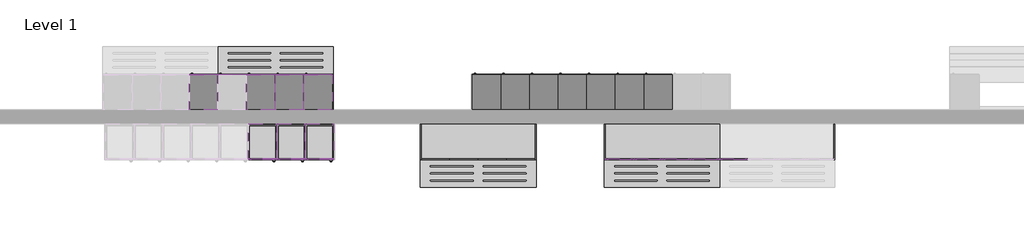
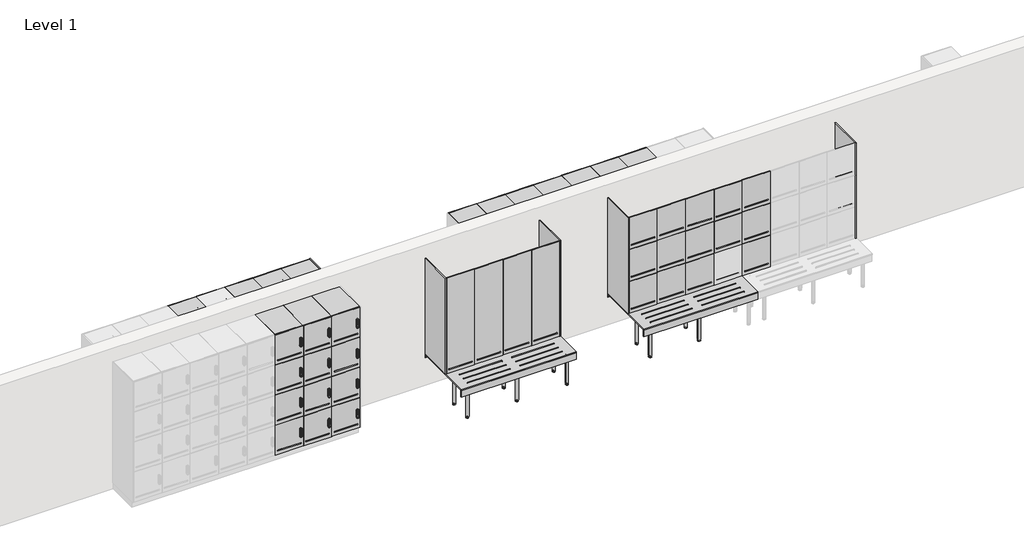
# One storey, part 2 of 3: 124 furniture elements.
"""IFC4 building model written with IfcOpenShell, lengths in millimetres."""

from ifc_helpers import new_model, si_unit, origin, place, context, project, spatial, transform, mapped, element, save
from components import furniture_7293fc8f, furniture_05545089, furniture_e4ac2a61, standard_2dcb62da, standard_f5ae554c, standard_45df0485, standard_ef5d929b, standard_f5e0fdab, standard_98e0e482, standard_e2bbb5fc, standard_e0f8491c, standard_74556009, standard_06cb4884, standard_31d623df, standard_40445af7, standard_a614ba5f, standard_bf09c246, standard_83458254, standard_7a0b6f89

model = new_model("IFC4")

# Units and contexts
model_context = context("Model", 3, world=origin())
ifc_project = project(units=[si_unit("LENGTHUNIT", "METRE", prefix="MILLI")], contexts=[model_context])

# Site, building, storey
site = spatial("IfcSite", under=ifc_project)
building = spatial("IfcBuilding", under=site)
storey = spatial("IfcBuildingStorey", under=building, Name="Level 1", Elevation=0.0)

# Furniture
placement = place(None, origin())
furniture_shape = furniture_7293fc8f(model_context)
element("IfcFurniture", 1, ObjectType="Lockers-Bay-Duracube-Duraloc : LBM-1900h x 500d x 400w with 470h Bench", at=placement, inside=storey, context=model_context, shape_type="MappedRepresentation", body=[
    mapped(furniture_shape, transform((-3635.1575415, 2567.7422336, 0.0), x_axis=(1.0, 0.0, 0.0), y_axis=(0.0, 1.0, 0.0), z_axis=(0.0, 0.0, 1.0))),
])
furniture_2_shape = furniture_05545089(model_context)
element("IfcFurniture", 2, ObjectType="Lockers-Bay-Duracube-Duraloc : LBM-1900h x 500d x 400w with 470h Bench", at=placement, inside=storey, context=model_context, shape_type="MappedRepresentation", body=[
    mapped(furniture_2_shape, transform((-1055.1575415, 2567.7422336, 0.0), x_axis=(1.0, 0.0, 0.0), y_axis=(0.0, 1.0, 0.0), z_axis=(0.0, 0.0, 1.0))),
])
furniture_3_shape = furniture_e4ac2a61(model_context)
element("IfcFurniture", 3, ObjectType="Lockers-Bay-Duracube-Duraloc : LWM-1900h x 500d x 400w @ 470h Wall", at=placement, inside=storey, context=model_context, shape_type="MappedRepresentation", body=[
    mapped(furniture_3_shape, transform((-4855.1575415, 3267.7422336, 0.0), x_axis=(-1.0, 0.0, 0.0), y_axis=(0.0, -1.0, 0.0), z_axis=(0.0, 0.0, 1.0))),
])
standard_shape = standard_2dcb62da(model_context)
element("IfcFurniture", 4, ObjectType="X_Bench-Foot-Duracube-Wall Assembly : Standard", at=placement, inside=storey, context=model_context, shape_type="MappedRepresentation", body=[
    mapped(standard_shape, transform((-3566.357868, 2317.7422336, 0.0), x_axis=(1.0, 0.0, 0.0), y_axis=(0.0, 1.0, 0.0), z_axis=(0.0, 0.0, 1.0))),
])
element("IfcFurniture", 5, ObjectType="X_Bench-Foot-Duracube-Wall Assembly : Standard", at=placement, inside=storey, context=model_context, shape_type="MappedRepresentation", body=[
    mapped(standard_shape, transform((-2866.857868, 2317.7422336, 0.0), x_axis=(1.0, 0.0, 0.0), y_axis=(0.0, 1.0, 0.0), z_axis=(0.0, 0.0, 1.0))),
])
element("IfcFurniture", 6, ObjectType="X_Bench-Foot-Duracube-Wall Assembly : Standard", at=placement, inside=storey, context=model_context, shape_type="MappedRepresentation", body=[
    mapped(standard_shape, transform((-986.357868, 2317.7422336, 0.0), x_axis=(1.0, 0.0, 0.0), y_axis=(0.0, 1.0, 0.0), z_axis=(0.0, 0.0, 1.0))),
])
element("IfcFurniture", 7, ObjectType="X_Bench-Foot-Duracube-Wall Assembly : Standard", at=placement, inside=storey, context=model_context, shape_type="MappedRepresentation", body=[
    mapped(standard_shape, transform((-293.357868, 2317.7422336, 0.0), x_axis=(1.0, 0.0, 0.0), y_axis=(0.0, 1.0, 0.0), z_axis=(0.0, 0.0, 1.0))),
])
element("IfcFurniture", 8, ObjectType="X_Bench-Foot-Duracube-Wall Assembly : Standard", at=placement, inside=storey, context=model_context, shape_type="MappedRepresentation", body=[
    mapped(standard_shape, transform((-4923.9572151, 3517.7422336, 0.0), x_axis=(-1.0, 0.0, 0.0), y_axis=(0.0, -1.0, 0.0), z_axis=(0.0, 0.0, 1.0))),
])
element("IfcFurniture", 9, ObjectType="X_Bench-Foot-Duracube-Wall Assembly : Standard", at=placement, inside=storey, context=model_context, shape_type="MappedRepresentation", body=[
    mapped(standard_shape, transform((-5616.9572151, 3517.7422336, 0.0), x_axis=(-1.0, 0.0, 0.0), y_axis=(0.0, -1.0, 0.0), z_axis=(0.0, 0.0, 1.0))),
])
element("IfcFurniture", 10, ObjectType="X_Bench-Foot-Duracube-Wall Assembly : Standard", at=placement, inside=storey, context=model_context, shape_type="MappedRepresentation", body=[
    mapped(standard_shape, transform((-6536.9572151, 3517.7422336, 0.0), x_axis=(-1.0, 0.0, 0.0), y_axis=(0.0, -1.0, 0.0), z_axis=(0.0, 0.0, 1.0))),
])
standard_2_shape = standard_f5ae554c(model_context)
element("IfcFurniture", 11, ObjectType="X_Bench-Foot-Duracube-Wall Assembly : Standard", at=placement, inside=storey, context=model_context, shape_type="MappedRepresentation", body=[
    mapped(standard_2_shape, transform((-2077.9572151, 2317.7422336, 0.0), x_axis=(-1.0, 0.0, 0.0), y_axis=(0.0, -1.0, 0.0), z_axis=(0.0, 0.0, 1.0))),
])
element("IfcFurniture", 12, ObjectType="X_Bench-Foot-Duracube-Wall Assembly : Standard", at=placement, inside=storey, context=model_context, shape_type="MappedRepresentation", body=[
    mapped(standard_2_shape, transform((-6399.357868, 3517.7422336, 0.0), x_axis=(1.0, 0.0, 0.0), y_axis=(0.0, 1.0, 0.0), z_axis=(0.0, 0.0, 1.0))),
])
standard_3_shape = standard_45df0485(model_context)
element("IfcFurniture", 13, ObjectType="X_Vanity-Angle-Duracube-Bench Support : Standard", at=placement, inside=storey, context=model_context, shape_type="MappedRepresentation", body=[
    mapped(standard_3_shape, transform((-293.357868, 2817.7422336, 417.0), x_axis=(1.0, 0.0, 0.0), y_axis=(0.0, 1.0, 0.0), z_axis=(0.0, 0.0, 1.0))),
])
element("IfcFurniture", 14, ObjectType="X_Vanity-Angle-Duracube-Bench Support : Standard", at=placement, inside=storey, context=model_context, shape_type="MappedRepresentation", body=[
    mapped(standard_3_shape, transform((-5616.9572151, 3017.7422336, 417.0), x_axis=(-1.0, 0.0, 0.0), y_axis=(0.0, -1.0, 0.0), z_axis=(0.0, 0.0, 1.0))),
])
standard_4_shape = standard_ef5d929b(model_context)
element("IfcFurniture", 15, ObjectType="X_Vanity-Angle-Duracube-Bench Support : Standard", at=placement, inside=storey, context=model_context, shape_type="MappedRepresentation", body=[
    mapped(standard_4_shape, transform((-2866.857868, 2817.7422336, 417.0), x_axis=(1.0, 0.0, 0.0), y_axis=(0.0, 1.0, 0.0), z_axis=(0.0, 0.0, 1.0))),
])
standard_5_shape = standard_f5e0fdab(model_context)
element("IfcFurniture", 16, ObjectType="X_Bench-Wall-Duracube-Locker : Standard", at=placement, inside=storey, context=model_context, shape_type="MappedRepresentation", body=[
    mapped(standard_5_shape, transform((-2866.857868, 2725.2422336, 0.0), x_axis=(1.0, 0.0, 0.0), y_axis=(0.0, 1.0, 0.0), z_axis=(0.0, 0.0, 1.0))),
])
standard_6_shape = standard_98e0e482(model_context)
element("IfcFurniture", 17, ObjectType="X_Bench-Wall-Duracube-Locker : Standard", at=placement, inside=storey, context=model_context, shape_type="MappedRepresentation", body=[
    mapped(standard_6_shape, transform((-293.357868, 2725.2422336, 0.0), x_axis=(1.0, 0.0, 0.0), y_axis=(0.0, 1.0, 0.0), z_axis=(0.0, 0.0, 1.0))),
])
element("IfcFurniture", 18, ObjectType="X_Bench-Wall-Duracube-Locker : Standard", at=placement, inside=storey, context=model_context, shape_type="MappedRepresentation", body=[
    mapped(standard_6_shape, transform((-5616.9572151, 3110.2422336, 0.0), x_axis=(-1.0, 0.0, 0.0), y_axis=(0.0, -1.0, 0.0), z_axis=(0.0, 0.0, 1.0))),
])
standard_7_shape = standard_e2bbb5fc(model_context)
element("IfcFurniture", 19, ObjectType="X_Locker-Duracube-Bay : Standard", at=placement, inside=storey, context=model_context, shape_type="MappedRepresentation", body=[
    mapped(standard_7_shape, transform((-5086.857868, 2817.7422336, 1450.0), x_axis=(1.0, 0.0, 0.0), y_axis=(0.0, 1.0, 0.0), z_axis=(0.0, 0.0, 1.0))),
])
element("IfcFurniture", 20, ObjectType="X_Locker-Duracube-Bay : Standard", at=placement, inside=storey, context=model_context, shape_type="MappedRepresentation", body=[
    mapped(standard_7_shape, transform((-5486.857868, 2817.7422336, 1450.0), x_axis=(1.0, 0.0, 0.0), y_axis=(0.0, 1.0, 0.0), z_axis=(0.0, 0.0, 1.0))),
])
element("IfcFurniture", 21, ObjectType="X_Locker-Duracube-Bay : Standard", at=placement, inside=storey, context=model_context, shape_type="MappedRepresentation", body=[
    mapped(standard_7_shape, transform((-5886.857868, 2817.7422336, 1450.0), x_axis=(1.0, 0.0, 0.0), y_axis=(0.0, 1.0, 0.0), z_axis=(0.0, 0.0, 1.0))),
])
standard_8_shape = standard_e0f8491c(model_context)
element("IfcFurniture", 22, ObjectType="X_Locker-Duracube-Door : Standard", at=placement, inside=storey, context=model_context, shape_type="MappedRepresentation", body=[
    mapped(standard_8_shape, transform((-5086.857868, 2330.7422336, 1450.0), x_axis=(1.0, 0.0, 0.0), y_axis=(0.0, 1.0, 0.0), z_axis=(0.0, 0.0, 1.0))),
])
element("IfcFurniture", 23, ObjectType="X_Locker-Duracube-Door : Standard", at=placement, inside=storey, context=model_context, shape_type="MappedRepresentation", body=[
    mapped(standard_8_shape, transform((-5486.857868, 2330.7422336, 1450.0), x_axis=(1.0, 0.0, 0.0), y_axis=(0.0, 1.0, 0.0), z_axis=(0.0, 0.0, 1.0))),
])
element("IfcFurniture", 24, ObjectType="X_Locker-Duracube-Door : Standard", at=placement, inside=storey, context=model_context, shape_type="MappedRepresentation", body=[
    mapped(standard_8_shape, transform((-5886.857868, 2330.7422336, 1450.0), x_axis=(1.0, 0.0, 0.0), y_axis=(0.0, 1.0, 0.0), z_axis=(0.0, 0.0, 1.0))),
])
element("IfcFurniture", 25, ObjectType="X_Locker-Duracube-Bay : Standard", at=placement, inside=storey, context=model_context, shape_type="MappedRepresentation", body=[
    mapped(standard_7_shape, transform((-5086.857868, 2817.7422336, 1000.0), x_axis=(1.0, 0.0, 0.0), y_axis=(0.0, 1.0, 0.0), z_axis=(0.0, 0.0, 1.0))),
])
element("IfcFurniture", 26, ObjectType="X_Locker-Duracube-Bay : Standard", at=placement, inside=storey, context=model_context, shape_type="MappedRepresentation", body=[
    mapped(standard_7_shape, transform((-5486.857868, 2817.7422336, 1000.0), x_axis=(1.0, 0.0, 0.0), y_axis=(0.0, 1.0, 0.0), z_axis=(0.0, 0.0, 1.0))),
])
element("IfcFurniture", 27, ObjectType="X_Locker-Duracube-Bay : Standard", at=placement, inside=storey, context=model_context, shape_type="MappedRepresentation", body=[
    mapped(standard_7_shape, transform((-5886.857868, 2817.7422336, 1000.0), x_axis=(1.0, 0.0, 0.0), y_axis=(0.0, 1.0, 0.0), z_axis=(0.0, 0.0, 1.0))),
])
element("IfcFurniture", 28, ObjectType="X_Locker-Duracube-Bay : Standard", at=placement, inside=storey, context=model_context, shape_type="MappedRepresentation", body=[
    mapped(standard_7_shape, transform((-5086.857868, 2817.7422336, 100.0), x_axis=(1.0, 0.0, 0.0), y_axis=(0.0, 1.0, 0.0), z_axis=(0.0, 0.0, 1.0))),
])
element("IfcFurniture", 29, ObjectType="X_Locker-Duracube-Bay : Standard", at=placement, inside=storey, context=model_context, shape_type="MappedRepresentation", body=[
    mapped(standard_7_shape, transform((-5486.857868, 2817.7422336, 100.0), x_axis=(1.0, 0.0, 0.0), y_axis=(0.0, 1.0, 0.0), z_axis=(0.0, 0.0, 1.0))),
])
element("IfcFurniture", 30, ObjectType="X_Locker-Duracube-Bay : Standard", at=placement, inside=storey, context=model_context, shape_type="MappedRepresentation", body=[
    mapped(standard_7_shape, transform((-5886.857868, 2817.7422336, 100.0), x_axis=(1.0, 0.0, 0.0), y_axis=(0.0, 1.0, 0.0), z_axis=(0.0, 0.0, 1.0))),
])
element("IfcFurniture", 31, ObjectType="X_Locker-Duracube-Door : Standard", at=placement, inside=storey, context=model_context, shape_type="MappedRepresentation", body=[
    mapped(standard_8_shape, transform((-5086.857868, 2330.7422336, 1000.0), x_axis=(1.0, 0.0, 0.0), y_axis=(0.0, 1.0, 0.0), z_axis=(0.0, 0.0, 1.0))),
])
element("IfcFurniture", 32, ObjectType="X_Locker-Duracube-Door : Standard", at=placement, inside=storey, context=model_context, shape_type="MappedRepresentation", body=[
    mapped(standard_8_shape, transform((-5486.857868, 2330.7422336, 1000.0), x_axis=(1.0, 0.0, 0.0), y_axis=(0.0, 1.0, 0.0), z_axis=(0.0, 0.0, 1.0))),
])
element("IfcFurniture", 33, ObjectType="X_Locker-Duracube-Door : Standard", at=placement, inside=storey, context=model_context, shape_type="MappedRepresentation", body=[
    mapped(standard_8_shape, transform((-5886.857868, 2330.7422336, 1000.0), x_axis=(1.0, 0.0, 0.0), y_axis=(0.0, 1.0, 0.0), z_axis=(0.0, 0.0, 1.0))),
])
element("IfcFurniture", 34, ObjectType="X_Locker-Duracube-Door : Standard", at=placement, inside=storey, context=model_context, shape_type="MappedRepresentation", body=[
    mapped(standard_8_shape, transform((-5086.857868, 2330.7422336, 100.0), x_axis=(1.0, 0.0, 0.0), y_axis=(0.0, 1.0, 0.0), z_axis=(0.0, 0.0, 1.0))),
])
element("IfcFurniture", 35, ObjectType="X_Locker-Duracube-Door : Standard", at=placement, inside=storey, context=model_context, shape_type="MappedRepresentation", body=[
    mapped(standard_8_shape, transform((-5486.857868, 2330.7422336, 100.0), x_axis=(1.0, 0.0, 0.0), y_axis=(0.0, 1.0, 0.0), z_axis=(0.0, 0.0, 1.0))),
])
element("IfcFurniture", 36, ObjectType="X_Locker-Duracube-Door : Standard", at=placement, inside=storey, context=model_context, shape_type="MappedRepresentation", body=[
    mapped(standard_8_shape, transform((-5886.857868, 2330.7422336, 100.0), x_axis=(1.0, 0.0, 0.0), y_axis=(0.0, 1.0, 0.0), z_axis=(0.0, 0.0, 1.0))),
])
element("IfcFurniture", 37, ObjectType="X_Locker-Duracube-Bay : Standard", at=placement, inside=storey, context=model_context, shape_type="MappedRepresentation", body=[
    mapped(standard_7_shape, transform((-5086.857868, 2817.7422336, 550.0), x_axis=(1.0, 0.0, 0.0), y_axis=(0.0, 1.0, 0.0), z_axis=(0.0, 0.0, 1.0))),
])
element("IfcFurniture", 38, ObjectType="X_Locker-Duracube-Bay : Standard", at=placement, inside=storey, context=model_context, shape_type="MappedRepresentation", body=[
    mapped(standard_7_shape, transform((-5486.857868, 2817.7422336, 550.0), x_axis=(1.0, 0.0, 0.0), y_axis=(0.0, 1.0, 0.0), z_axis=(0.0, 0.0, 1.0))),
])
element("IfcFurniture", 39, ObjectType="X_Locker-Duracube-Bay : Standard", at=placement, inside=storey, context=model_context, shape_type="MappedRepresentation", body=[
    mapped(standard_7_shape, transform((-5886.857868, 2817.7422336, 550.0), x_axis=(1.0, 0.0, 0.0), y_axis=(0.0, 1.0, 0.0), z_axis=(0.0, 0.0, 1.0))),
])
element("IfcFurniture", 40, ObjectType="X_Locker-Duracube-Door : Standard", at=placement, inside=storey, context=model_context, shape_type="MappedRepresentation", body=[
    mapped(standard_8_shape, transform((-5086.857868, 2330.7422336, 550.0), x_axis=(1.0, 0.0, 0.0), y_axis=(0.0, 1.0, 0.0), z_axis=(0.0, 0.0, 1.0))),
])
element("IfcFurniture", 41, ObjectType="X_Locker-Duracube-Door : Standard", at=placement, inside=storey, context=model_context, shape_type="MappedRepresentation", body=[
    mapped(standard_8_shape, transform((-5486.857868, 2330.7422336, 550.0), x_axis=(1.0, 0.0, 0.0), y_axis=(0.0, 1.0, 0.0), z_axis=(0.0, 0.0, 1.0))),
])
element("IfcFurniture", 42, ObjectType="X_Locker-Duracube-Door : Standard", at=placement, inside=storey, context=model_context, shape_type="MappedRepresentation", body=[
    mapped(standard_8_shape, transform((-5886.857868, 2330.7422336, 550.0), x_axis=(1.0, 0.0, 0.0), y_axis=(0.0, 1.0, 0.0), z_axis=(0.0, 0.0, 1.0))),
])
standard_9_shape = standard_74556009(model_context)
element("IfcFurniture", 43, ObjectType="X_Locker-Duracube-Door : Standard", at=placement, inside=storey, context=model_context, shape_type="MappedRepresentation", body=[
    mapped(standard_9_shape, transform((-2266.857868, 2330.7422336, 470.0), x_axis=(1.0, 0.0, 0.0), y_axis=(0.0, 1.0, 0.0), z_axis=(0.0, 0.0, 1.0))),
])
element("IfcFurniture", 44, ObjectType="X_Locker-Duracube-Door : Standard", at=placement, inside=storey, context=model_context, shape_type="MappedRepresentation", body=[
    mapped(standard_9_shape, transform((-2666.857868, 2330.7422336, 470.0), x_axis=(1.0, 0.0, 0.0), y_axis=(0.0, 1.0, 0.0), z_axis=(0.0, 0.0, 1.0))),
])
element("IfcFurniture", 45, ObjectType="X_Locker-Duracube-Door : Standard", at=placement, inside=storey, context=model_context, shape_type="MappedRepresentation", body=[
    mapped(standard_9_shape, transform((-3066.857868, 2330.7422336, 470.0), x_axis=(1.0, 0.0, 0.0), y_axis=(0.0, 1.0, 0.0), z_axis=(0.0, 0.0, 1.0))),
])
element("IfcFurniture", 46, ObjectType="X_Locker-Duracube-Door : Standard", at=placement, inside=storey, context=model_context, shape_type="MappedRepresentation", body=[
    mapped(standard_9_shape, transform((-3466.857868, 2330.7422336, 470.0), x_axis=(1.0, 0.0, 0.0), y_axis=(0.0, 1.0, 0.0), z_axis=(0.0, 0.0, 1.0))),
])
standard_10_shape = standard_06cb4884(model_context)
element("IfcFurniture", 47, ObjectType="X_Locker-Duracube-Door : Standard", at=placement, inside=storey, context=model_context, shape_type="MappedRepresentation", body=[
    mapped(standard_10_shape, transform((713.142132, 2330.7422336, 1423.3333333), x_axis=(1.0, 0.0, 0.0), y_axis=(0.0, 1.0, 0.0), z_axis=(0.0, 0.0, 1.0))),
])
element("IfcFurniture", 48, ObjectType="X_Locker-Duracube-Door : Standard", at=placement, inside=storey, context=model_context, shape_type="MappedRepresentation", body=[
    mapped(standard_10_shape, transform((313.142132, 2330.7422336, 1423.3333333), x_axis=(1.0, 0.0, 0.0), y_axis=(0.0, 1.0, 0.0), z_axis=(0.0, 0.0, 1.0))),
])
element("IfcFurniture", 49, ObjectType="X_Locker-Duracube-Door : Standard", at=placement, inside=storey, context=model_context, shape_type="MappedRepresentation", body=[
    mapped(standard_10_shape, transform((-86.857868, 2330.7422336, 1423.3333333), x_axis=(1.0, 0.0, 0.0), y_axis=(0.0, 1.0, 0.0), z_axis=(0.0, 0.0, 1.0))),
])
element("IfcFurniture", 50, ObjectType="X_Locker-Duracube-Door : Standard", at=placement, inside=storey, context=model_context, shape_type="MappedRepresentation", body=[
    mapped(standard_10_shape, transform((713.142132, 2330.7422336, 946.6666667), x_axis=(1.0, 0.0, 0.0), y_axis=(0.0, 1.0, 0.0), z_axis=(0.0, 0.0, 1.0))),
])
element("IfcFurniture", 51, ObjectType="X_Locker-Duracube-Door : Standard", at=placement, inside=storey, context=model_context, shape_type="MappedRepresentation", body=[
    mapped(standard_10_shape, transform((313.142132, 2330.7422336, 946.6666667), x_axis=(1.0, 0.0, 0.0), y_axis=(0.0, 1.0, 0.0), z_axis=(0.0, 0.0, 1.0))),
])
element("IfcFurniture", 52, ObjectType="X_Locker-Duracube-Door : Standard", at=placement, inside=storey, context=model_context, shape_type="MappedRepresentation", body=[
    mapped(standard_10_shape, transform((-86.857868, 2330.7422336, 946.6666667), x_axis=(1.0, 0.0, 0.0), y_axis=(0.0, 1.0, 0.0), z_axis=(0.0, 0.0, 1.0))),
])
element("IfcFurniture", 53, ObjectType="X_Locker-Duracube-Door : Standard", at=placement, inside=storey, context=model_context, shape_type="MappedRepresentation", body=[
    mapped(standard_10_shape, transform((713.142132, 2330.7422336, 470.0), x_axis=(1.0, 0.0, 0.0), y_axis=(0.0, 1.0, 0.0), z_axis=(0.0, 0.0, 1.0))),
])
element("IfcFurniture", 54, ObjectType="X_Locker-Duracube-Door : Standard", at=placement, inside=storey, context=model_context, shape_type="MappedRepresentation", body=[
    mapped(standard_10_shape, transform((-86.857868, 2330.7422336, 470.0), x_axis=(1.0, 0.0, 0.0), y_axis=(0.0, 1.0, 0.0), z_axis=(0.0, 0.0, 1.0))),
])
element("IfcFurniture", 55, ObjectType="X_Locker-Duracube-Door : Standard", at=placement, inside=storey, context=model_context, shape_type="MappedRepresentation", body=[
    mapped(standard_10_shape, transform((-486.857868, 2330.7422336, 1423.3333333), x_axis=(1.0, 0.0, 0.0), y_axis=(0.0, 1.0, 0.0), z_axis=(0.0, 0.0, 1.0))),
])
element("IfcFurniture", 56, ObjectType="X_Locker-Duracube-Door : Standard", at=placement, inside=storey, context=model_context, shape_type="MappedRepresentation", body=[
    mapped(standard_10_shape, transform((-486.857868, 2330.7422336, 946.6666667), x_axis=(1.0, 0.0, 0.0), y_axis=(0.0, 1.0, 0.0), z_axis=(0.0, 0.0, 1.0))),
])
element("IfcFurniture", 57, ObjectType="X_Locker-Duracube-Door : Standard", at=placement, inside=storey, context=model_context, shape_type="MappedRepresentation", body=[
    mapped(standard_10_shape, transform((-486.857868, 2330.7422336, 470.0), x_axis=(1.0, 0.0, 0.0), y_axis=(0.0, 1.0, 0.0), z_axis=(0.0, 0.0, 1.0))),
])
element("IfcFurniture", 58, ObjectType="X_Locker-Duracube-Door : Standard", at=placement, inside=storey, context=model_context, shape_type="MappedRepresentation", body=[
    mapped(standard_10_shape, transform((-886.857868, 2330.7422336, 1423.3333333), x_axis=(1.0, 0.0, 0.0), y_axis=(0.0, 1.0, 0.0), z_axis=(0.0, 0.0, 1.0))),
])
element("IfcFurniture", 59, ObjectType="X_Locker-Duracube-Door : Standard", at=placement, inside=storey, context=model_context, shape_type="MappedRepresentation", body=[
    mapped(standard_10_shape, transform((-886.857868, 2330.7422336, 946.6666667), x_axis=(1.0, 0.0, 0.0), y_axis=(0.0, 1.0, 0.0), z_axis=(0.0, 0.0, 1.0))),
])
element("IfcFurniture", 60, ObjectType="X_Locker-Duracube-Door : Standard", at=placement, inside=storey, context=model_context, shape_type="MappedRepresentation", body=[
    mapped(standard_10_shape, transform((-886.857868, 2330.7422336, 470.0), x_axis=(1.0, 0.0, 0.0), y_axis=(0.0, 1.0, 0.0), z_axis=(0.0, 0.0, 1.0))),
])
standard_11_shape = standard_31d623df(model_context)
element("IfcFurniture", 61, ObjectType="X_Locker-Duracube-Door : Standard", at=placement, inside=storey, context=model_context, shape_type="MappedRepresentation", body=[
    mapped(standard_11_shape, transform((-2661.442015, 3504.7422336, 1185.0), x_axis=(-1.0, 0.0, 0.0), y_axis=(0.0, -1.0, 0.0), z_axis=(0.0, 0.0, 1.0))),
])
element("IfcFurniture", 62, ObjectType="X_Locker-Duracube-Door : Standard", at=placement, inside=storey, context=model_context, shape_type="MappedRepresentation", body=[
    mapped(standard_11_shape, transform((-2261.442015, 3504.7422336, 1185.0), x_axis=(-1.0, 0.0, 0.0), y_axis=(0.0, -1.0, 0.0), z_axis=(0.0, 0.0, 1.0))),
])
element("IfcFurniture", 63, ObjectType="X_Locker-Duracube-Door : Standard", at=placement, inside=storey, context=model_context, shape_type="MappedRepresentation", body=[
    mapped(standard_11_shape, transform((-1861.442015, 3504.7422336, 1185.0), x_axis=(-1.0, 0.0, 0.0), y_axis=(0.0, -1.0, 0.0), z_axis=(0.0, 0.0, 1.0))),
])
element("IfcFurniture", 64, ObjectType="X_Locker-Duracube-Door : Standard", at=placement, inside=storey, context=model_context, shape_type="MappedRepresentation", body=[
    mapped(standard_11_shape, transform((-1461.442015, 3504.7422336, 1185.0), x_axis=(-1.0, 0.0, 0.0), y_axis=(0.0, -1.0, 0.0), z_axis=(0.0, 0.0, 1.0))),
])
element("IfcFurniture", 65, ObjectType="X_Locker-Duracube-Door : Standard", at=placement, inside=storey, context=model_context, shape_type="MappedRepresentation", body=[
    mapped(standard_11_shape, transform((-1061.442015, 3504.7422336, 1185.0), x_axis=(-1.0, 0.0, 0.0), y_axis=(0.0, -1.0, 0.0), z_axis=(0.0, 0.0, 1.0))),
])
element("IfcFurniture", 66, ObjectType="X_Locker-Duracube-Door : Standard", at=placement, inside=storey, context=model_context, shape_type="MappedRepresentation", body=[
    mapped(standard_11_shape, transform((-661.442015, 3504.7422336, 1185.0), x_axis=(-1.0, 0.0, 0.0), y_axis=(0.0, -1.0, 0.0), z_axis=(0.0, 0.0, 1.0))),
])
element("IfcFurniture", 67, ObjectType="X_Locker-Duracube-Door : Standard", at=placement, inside=storey, context=model_context, shape_type="MappedRepresentation", body=[
    mapped(standard_11_shape, transform((-261.442015, 3504.7422336, 1185.0), x_axis=(-1.0, 0.0, 0.0), y_axis=(0.0, -1.0, 0.0), z_axis=(0.0, 0.0, 1.0))),
])
element("IfcFurniture", 68, ObjectType="X_Locker-Duracube-Door : Standard", at=placement, inside=storey, context=model_context, shape_type="MappedRepresentation", body=[
    mapped(standard_11_shape, transform((-2661.442015, 3504.7422336, 470.0), x_axis=(-1.0, 0.0, 0.0), y_axis=(0.0, -1.0, 0.0), z_axis=(0.0, 0.0, 1.0))),
])
element("IfcFurniture", 69, ObjectType="X_Locker-Duracube-Door : Standard", at=placement, inside=storey, context=model_context, shape_type="MappedRepresentation", body=[
    mapped(standard_11_shape, transform((-2261.442015, 3504.7422336, 470.0), x_axis=(-1.0, 0.0, 0.0), y_axis=(0.0, -1.0, 0.0), z_axis=(0.0, 0.0, 1.0))),
])
element("IfcFurniture", 70, ObjectType="X_Locker-Duracube-Door : Standard", at=placement, inside=storey, context=model_context, shape_type="MappedRepresentation", body=[
    mapped(standard_11_shape, transform((-1861.442015, 3504.7422336, 470.0), x_axis=(-1.0, 0.0, 0.0), y_axis=(0.0, -1.0, 0.0), z_axis=(0.0, 0.0, 1.0))),
])
element("IfcFurniture", 71, ObjectType="X_Locker-Duracube-Door : Standard", at=placement, inside=storey, context=model_context, shape_type="MappedRepresentation", body=[
    mapped(standard_11_shape, transform((-1461.442015, 3504.7422336, 470.0), x_axis=(-1.0, 0.0, 0.0), y_axis=(0.0, -1.0, 0.0), z_axis=(0.0, 0.0, 1.0))),
])
element("IfcFurniture", 72, ObjectType="X_Locker-Duracube-Door : Standard", at=placement, inside=storey, context=model_context, shape_type="MappedRepresentation", body=[
    mapped(standard_11_shape, transform((-1061.442015, 3504.7422336, 470.0), x_axis=(-1.0, 0.0, 0.0), y_axis=(0.0, -1.0, 0.0), z_axis=(0.0, 0.0, 1.0))),
])
element("IfcFurniture", 73, ObjectType="X_Locker-Duracube-Door : Standard", at=placement, inside=storey, context=model_context, shape_type="MappedRepresentation", body=[
    mapped(standard_11_shape, transform((-661.442015, 3504.7422336, 470.0), x_axis=(-1.0, 0.0, 0.0), y_axis=(0.0, -1.0, 0.0), z_axis=(0.0, 0.0, 1.0))),
])
element("IfcFurniture", 74, ObjectType="X_Locker-Duracube-Door : Standard", at=placement, inside=storey, context=model_context, shape_type="MappedRepresentation", body=[
    mapped(standard_11_shape, transform((-261.442015, 3504.7422336, 470.0), x_axis=(-1.0, 0.0, 0.0), y_axis=(0.0, -1.0, 0.0), z_axis=(0.0, 0.0, 1.0))),
])
standard_12_shape = standard_40445af7(model_context)
element("IfcFurniture", 75, ObjectType="X_Locker-Duracube-Bay : Standard", at=placement, inside=storey, context=model_context, shape_type="MappedRepresentation", body=[
    mapped(standard_12_shape, transform((-5023.4572151, 3017.7422336, 470.0), x_axis=(-1.0, 0.0, 0.0), y_axis=(0.0, -1.0, 0.0), z_axis=(0.0, 0.0, 1.0))),
])
element("IfcFurniture", 76, ObjectType="X_Locker-Duracube-Bay : Standard", at=placement, inside=storey, context=model_context, shape_type="MappedRepresentation", body=[
    mapped(standard_12_shape, transform((-5023.4572151, 3017.7422336, 1185.0), x_axis=(-1.0, 0.0, 0.0), y_axis=(0.0, -1.0, 0.0), z_axis=(0.0, 0.0, 1.0))),
])
element("IfcFurniture", 77, ObjectType="X_Locker-Duracube-Bay : Standard", at=placement, inside=storey, context=model_context, shape_type="MappedRepresentation", body=[
    mapped(standard_12_shape, transform((-5423.4572151, 3017.7422336, 827.5), x_axis=(-1.0, 0.0, 0.0), y_axis=(0.0, -1.0, 0.0), z_axis=(0.0, 0.0, 1.0))),
])
element("IfcFurniture", 78, ObjectType="X_Locker-Duracube-Bay : Standard", at=placement, inside=storey, context=model_context, shape_type="MappedRepresentation", body=[
    mapped(standard_12_shape, transform((-5423.4572151, 3017.7422336, 1542.5), x_axis=(-1.0, 0.0, 0.0), y_axis=(0.0, -1.0, 0.0), z_axis=(0.0, 0.0, 1.0))),
])
element("IfcFurniture", 79, ObjectType="X_Locker-Duracube-Bay : Standard", at=placement, inside=storey, context=model_context, shape_type="MappedRepresentation", body=[
    mapped(standard_12_shape, transform((-5823.4572151, 3017.7422336, 470.0), x_axis=(-1.0, 0.0, 0.0), y_axis=(0.0, -1.0, 0.0), z_axis=(0.0, 0.0, 1.0))),
])
element("IfcFurniture", 80, ObjectType="X_Locker-Duracube-Bay : Standard", at=placement, inside=storey, context=model_context, shape_type="MappedRepresentation", body=[
    mapped(standard_12_shape, transform((-5823.4572151, 3017.7422336, 1185.0), x_axis=(-1.0, 0.0, 0.0), y_axis=(0.0, -1.0, 0.0), z_axis=(0.0, 0.0, 1.0))),
])
element("IfcFurniture", 81, ObjectType="X_Locker-Duracube-Bay : Standard", at=placement, inside=storey, context=model_context, shape_type="MappedRepresentation", body=[
    mapped(standard_12_shape, transform((-6623.4572151, 3017.7422336, 470.0), x_axis=(-1.0, 0.0, 0.0), y_axis=(0.0, -1.0, 0.0), z_axis=(0.0, 0.0, 1.0))),
])
element("IfcFurniture", 82, ObjectType="X_Locker-Duracube-Bay : Standard", at=placement, inside=storey, context=model_context, shape_type="MappedRepresentation", body=[
    mapped(standard_12_shape, transform((-6623.4572151, 3017.7422336, 1185.0), x_axis=(-1.0, 0.0, 0.0), y_axis=(0.0, -1.0, 0.0), z_axis=(0.0, 0.0, 1.0))),
])
standard_13_shape = standard_a614ba5f(model_context)
element("IfcFurniture", 83, ObjectType="X_Locker-Duracube-Door : Standard", at=placement, inside=storey, context=model_context, shape_type="MappedRepresentation", body=[
    mapped(standard_13_shape, transform((-5023.4572151, 3504.7422336, 470.0), x_axis=(-1.0, 0.0, 0.0), y_axis=(0.0, -1.0, 0.0), z_axis=(0.0, 0.0, 1.0))),
])
element("IfcFurniture", 84, ObjectType="X_Locker-Duracube-Door : Standard", at=placement, inside=storey, context=model_context, shape_type="MappedRepresentation", body=[
    mapped(standard_13_shape, transform((-5023.4572151, 3504.7422336, 1185.0), x_axis=(-1.0, 0.0, 0.0), y_axis=(0.0, -1.0, 0.0), z_axis=(0.0, 0.0, 1.0))),
])
element("IfcFurniture", 85, ObjectType="X_Locker-Duracube-Door : Standard", at=placement, inside=storey, context=model_context, shape_type="MappedRepresentation", body=[
    mapped(standard_13_shape, transform((-5423.4572151, 3504.7422336, 827.5), x_axis=(-1.0, 0.0, 0.0), y_axis=(0.0, -1.0, 0.0), z_axis=(0.0, 0.0, 1.0))),
])
element("IfcFurniture", 86, ObjectType="X_Locker-Duracube-Door : Standard", at=placement, inside=storey, context=model_context, shape_type="MappedRepresentation", body=[
    mapped(standard_13_shape, transform((-5423.4572151, 3504.7422336, 1542.5), x_axis=(-1.0, 0.0, 0.0), y_axis=(0.0, -1.0, 0.0), z_axis=(0.0, 0.0, 1.0))),
])
element("IfcFurniture", 87, ObjectType="X_Locker-Duracube-Door : Standard", at=placement, inside=storey, context=model_context, shape_type="MappedRepresentation", body=[
    mapped(standard_13_shape, transform((-5823.4572151, 3504.7422336, 470.0), x_axis=(-1.0, 0.0, 0.0), y_axis=(0.0, -1.0, 0.0), z_axis=(0.0, 0.0, 1.0))),
])
element("IfcFurniture", 88, ObjectType="X_Locker-Duracube-Door : Standard", at=placement, inside=storey, context=model_context, shape_type="MappedRepresentation", body=[
    mapped(standard_13_shape, transform((-5823.4572151, 3504.7422336, 1185.0), x_axis=(-1.0, 0.0, 0.0), y_axis=(0.0, -1.0, 0.0), z_axis=(0.0, 0.0, 1.0))),
])
element("IfcFurniture", 89, ObjectType="X_Locker-Duracube-Door : Standard", at=placement, inside=storey, context=model_context, shape_type="MappedRepresentation", body=[
    mapped(standard_13_shape, transform((-6223.4572151, 3504.7422336, 1542.5), x_axis=(-1.0, 0.0, 0.0), y_axis=(0.0, -1.0, 0.0), z_axis=(0.0, 0.0, 1.0))),
])
element("IfcFurniture", 90, ObjectType="X_Locker-Duracube-Door : Standard", at=placement, inside=storey, context=model_context, shape_type="MappedRepresentation", body=[
    mapped(standard_13_shape, transform((-6623.4572151, 3504.7422336, 470.0), x_axis=(-1.0, 0.0, 0.0), y_axis=(0.0, -1.0, 0.0), z_axis=(0.0, 0.0, 1.0))),
])
element("IfcFurniture", 91, ObjectType="X_Locker-Duracube-Door : Standard", at=placement, inside=storey, context=model_context, shape_type="MappedRepresentation", body=[
    mapped(standard_13_shape, transform((-6623.4572151, 3504.7422336, 1185.0), x_axis=(-1.0, 0.0, 0.0), y_axis=(0.0, -1.0, 0.0), z_axis=(0.0, 0.0, 1.0))),
])
element("IfcFurniture", 92, ObjectType="X_Locker-Duracube-Bay : Standard", at=placement, inside=storey, context=model_context, shape_type="MappedRepresentation", body=[
    mapped(standard_12_shape, transform((-5023.4572151, 3017.7422336, 827.5), x_axis=(-1.0, 0.0, 0.0), y_axis=(0.0, -1.0, 0.0), z_axis=(0.0, 0.0, 1.0))),
])
element("IfcFurniture", 93, ObjectType="X_Locker-Duracube-Bay : Standard", at=placement, inside=storey, context=model_context, shape_type="MappedRepresentation", body=[
    mapped(standard_12_shape, transform((-5423.4572151, 3017.7422336, 1185.0), x_axis=(-1.0, 0.0, 0.0), y_axis=(0.0, -1.0, 0.0), z_axis=(0.0, 0.0, 1.0))),
])
element("IfcFurniture", 94, ObjectType="X_Locker-Duracube-Bay : Standard", at=placement, inside=storey, context=model_context, shape_type="MappedRepresentation", body=[
    mapped(standard_12_shape, transform((-5823.4572151, 3017.7422336, 827.5), x_axis=(-1.0, 0.0, 0.0), y_axis=(0.0, -1.0, 0.0), z_axis=(0.0, 0.0, 1.0))),
])
element("IfcFurniture", 95, ObjectType="X_Locker-Duracube-Bay : Standard", at=placement, inside=storey, context=model_context, shape_type="MappedRepresentation", body=[
    mapped(standard_12_shape, transform((-6623.4572151, 3017.7422336, 1542.5), x_axis=(-1.0, 0.0, 0.0), y_axis=(0.0, -1.0, 0.0), z_axis=(0.0, 0.0, 1.0))),
])
element("IfcFurniture", 96, ObjectType="X_Locker-Duracube-Door : Standard", at=placement, inside=storey, context=model_context, shape_type="MappedRepresentation", body=[
    mapped(standard_13_shape, transform((-5023.4572151, 3504.7422336, 827.5), x_axis=(-1.0, 0.0, 0.0), y_axis=(0.0, -1.0, 0.0), z_axis=(0.0, 0.0, 1.0))),
])
element("IfcFurniture", 97, ObjectType="X_Locker-Duracube-Door : Standard", at=placement, inside=storey, context=model_context, shape_type="MappedRepresentation", body=[
    mapped(standard_13_shape, transform((-5423.4572151, 3504.7422336, 1185.0), x_axis=(-1.0, 0.0, 0.0), y_axis=(0.0, -1.0, 0.0), z_axis=(0.0, 0.0, 1.0))),
])
element("IfcFurniture", 98, ObjectType="X_Locker-Duracube-Door : Standard", at=placement, inside=storey, context=model_context, shape_type="MappedRepresentation", body=[
    mapped(standard_13_shape, transform((-5823.4572151, 3504.7422336, 827.5), x_axis=(-1.0, 0.0, 0.0), y_axis=(0.0, -1.0, 0.0), z_axis=(0.0, 0.0, 1.0))),
])
element("IfcFurniture", 99, ObjectType="X_Locker-Duracube-Door : Standard", at=placement, inside=storey, context=model_context, shape_type="MappedRepresentation", body=[
    mapped(standard_13_shape, transform((-6623.4572151, 3504.7422336, 1542.5), x_axis=(-1.0, 0.0, 0.0), y_axis=(0.0, -1.0, 0.0), z_axis=(0.0, 0.0, 1.0))),
])
element("IfcFurniture", 100, ObjectType="X_Locker-Duracube-Bay : Standard", at=placement, inside=storey, context=model_context, shape_type="MappedRepresentation", body=[
    mapped(standard_12_shape, transform((-5023.4572151, 3017.7422336, 1542.5), x_axis=(-1.0, 0.0, 0.0), y_axis=(0.0, -1.0, 0.0), z_axis=(0.0, 0.0, 1.0))),
])
element("IfcFurniture", 101, ObjectType="X_Locker-Duracube-Bay : Standard", at=placement, inside=storey, context=model_context, shape_type="MappedRepresentation", body=[
    mapped(standard_12_shape, transform((-5423.4572151, 3017.7422336, 470.0), x_axis=(-1.0, 0.0, 0.0), y_axis=(0.0, -1.0, 0.0), z_axis=(0.0, 0.0, 1.0))),
])
element("IfcFurniture", 102, ObjectType="X_Locker-Duracube-Bay : Standard", at=placement, inside=storey, context=model_context, shape_type="MappedRepresentation", body=[
    mapped(standard_12_shape, transform((-5823.4572151, 3017.7422336, 1542.5), x_axis=(-1.0, 0.0, 0.0), y_axis=(0.0, -1.0, 0.0), z_axis=(0.0, 0.0, 1.0))),
])
element("IfcFurniture", 103, ObjectType="X_Locker-Duracube-Bay : Standard", at=placement, inside=storey, context=model_context, shape_type="MappedRepresentation", body=[
    mapped(standard_12_shape, transform((-6623.4572151, 3017.7422336, 827.5), x_axis=(-1.0, 0.0, 0.0), y_axis=(0.0, -1.0, 0.0), z_axis=(0.0, 0.0, 1.0))),
])
element("IfcFurniture", 104, ObjectType="X_Locker-Duracube-Door : Standard", at=placement, inside=storey, context=model_context, shape_type="MappedRepresentation", body=[
    mapped(standard_13_shape, transform((-5023.4572151, 3504.7422336, 1542.5), x_axis=(-1.0, 0.0, 0.0), y_axis=(0.0, -1.0, 0.0), z_axis=(0.0, 0.0, 1.0))),
])
element("IfcFurniture", 105, ObjectType="X_Locker-Duracube-Door : Standard", at=placement, inside=storey, context=model_context, shape_type="MappedRepresentation", body=[
    mapped(standard_13_shape, transform((-5423.4572151, 3504.7422336, 470.0), x_axis=(-1.0, 0.0, 0.0), y_axis=(0.0, -1.0, 0.0), z_axis=(0.0, 0.0, 1.0))),
])
element("IfcFurniture", 106, ObjectType="X_Locker-Duracube-Door : Standard", at=placement, inside=storey, context=model_context, shape_type="MappedRepresentation", body=[
    mapped(standard_13_shape, transform((-5823.4572151, 3504.7422336, 1542.5), x_axis=(-1.0, 0.0, 0.0), y_axis=(0.0, -1.0, 0.0), z_axis=(0.0, 0.0, 1.0))),
])
element("IfcFurniture", 107, ObjectType="X_Locker-Duracube-Door : Standard", at=placement, inside=storey, context=model_context, shape_type="MappedRepresentation", body=[
    mapped(standard_13_shape, transform((-6223.4572151, 3504.7422336, 1185.0), x_axis=(-1.0, 0.0, 0.0), y_axis=(0.0, -1.0, 0.0), z_axis=(0.0, 0.0, 1.0))),
])
element("IfcFurniture", 108, ObjectType="X_Locker-Duracube-Door : Standard", at=placement, inside=storey, context=model_context, shape_type="MappedRepresentation", body=[
    mapped(standard_13_shape, transform((-6623.4572151, 3504.7422336, 827.5), x_axis=(-1.0, 0.0, 0.0), y_axis=(0.0, -1.0, 0.0), z_axis=(0.0, 0.0, 1.0))),
])
standard_14_shape = standard_bf09c246(model_context)
element("IfcFurniture", 109, ObjectType="X_Locker-Duracube-Bay : Standard", at=placement, inside=storey, context=model_context, shape_type="MappedRepresentation", body=[
    mapped(standard_14_shape, transform((-2661.442015, 3017.7422336, 1185.0), x_axis=(-1.0, 0.0, 0.0), y_axis=(0.0, -1.0, 0.0), z_axis=(0.0, 0.0, 1.0))),
])
element("IfcFurniture", 110, ObjectType="X_Locker-Duracube-Bay : Standard", at=placement, inside=storey, context=model_context, shape_type="MappedRepresentation", body=[
    mapped(standard_14_shape, transform((-2261.442015, 3017.7422336, 1185.0), x_axis=(-1.0, 0.0, 0.0), y_axis=(0.0, -1.0, 0.0), z_axis=(0.0, 0.0, 1.0))),
])
element("IfcFurniture", 111, ObjectType="X_Locker-Duracube-Bay : Standard", at=placement, inside=storey, context=model_context, shape_type="MappedRepresentation", body=[
    mapped(standard_14_shape, transform((-1861.442015, 3017.7422336, 1185.0), x_axis=(-1.0, 0.0, 0.0), y_axis=(0.0, -1.0, 0.0), z_axis=(0.0, 0.0, 1.0))),
])
element("IfcFurniture", 112, ObjectType="X_Locker-Duracube-Bay : Standard", at=placement, inside=storey, context=model_context, shape_type="MappedRepresentation", body=[
    mapped(standard_14_shape, transform((-1461.442015, 3017.7422336, 1185.0), x_axis=(-1.0, 0.0, 0.0), y_axis=(0.0, -1.0, 0.0), z_axis=(0.0, 0.0, 1.0))),
])
element("IfcFurniture", 113, ObjectType="X_Locker-Duracube-Bay : Standard", at=placement, inside=storey, context=model_context, shape_type="MappedRepresentation", body=[
    mapped(standard_14_shape, transform((-1061.442015, 3017.7422336, 1185.0), x_axis=(-1.0, 0.0, 0.0), y_axis=(0.0, -1.0, 0.0), z_axis=(0.0, 0.0, 1.0))),
])
element("IfcFurniture", 114, ObjectType="X_Locker-Duracube-Bay : Standard", at=placement, inside=storey, context=model_context, shape_type="MappedRepresentation", body=[
    mapped(standard_14_shape, transform((-661.442015, 3017.7422336, 1185.0), x_axis=(-1.0, 0.0, 0.0), y_axis=(0.0, -1.0, 0.0), z_axis=(0.0, 0.0, 1.0))),
])
element("IfcFurniture", 115, ObjectType="X_Locker-Duracube-Bay : Standard", at=placement, inside=storey, context=model_context, shape_type="MappedRepresentation", body=[
    mapped(standard_14_shape, transform((-261.442015, 3017.7422336, 1185.0), x_axis=(-1.0, 0.0, 0.0), y_axis=(0.0, -1.0, 0.0), z_axis=(0.0, 0.0, 1.0))),
])
element("IfcFurniture", 116, ObjectType="X_Locker-Duracube-Bay : Standard", at=placement, inside=storey, context=model_context, shape_type="MappedRepresentation", body=[
    mapped(standard_14_shape, transform((-2661.442015, 3017.7422336, 470.0), x_axis=(-1.0, 0.0, 0.0), y_axis=(0.0, -1.0, 0.0), z_axis=(0.0, 0.0, 1.0))),
])
element("IfcFurniture", 117, ObjectType="X_Locker-Duracube-Bay : Standard", at=placement, inside=storey, context=model_context, shape_type="MappedRepresentation", body=[
    mapped(standard_14_shape, transform((-2261.442015, 3017.7422336, 470.0), x_axis=(-1.0, 0.0, 0.0), y_axis=(0.0, -1.0, 0.0), z_axis=(0.0, 0.0, 1.0))),
])
element("IfcFurniture", 118, ObjectType="X_Locker-Duracube-Bay : Standard", at=placement, inside=storey, context=model_context, shape_type="MappedRepresentation", body=[
    mapped(standard_14_shape, transform((-1861.442015, 3017.7422336, 470.0), x_axis=(-1.0, 0.0, 0.0), y_axis=(0.0, -1.0, 0.0), z_axis=(0.0, 0.0, 1.0))),
])
element("IfcFurniture", 119, ObjectType="X_Locker-Duracube-Bay : Standard", at=placement, inside=storey, context=model_context, shape_type="MappedRepresentation", body=[
    mapped(standard_14_shape, transform((-1461.442015, 3017.7422336, 470.0), x_axis=(-1.0, 0.0, 0.0), y_axis=(0.0, -1.0, 0.0), z_axis=(0.0, 0.0, 1.0))),
])
element("IfcFurniture", 120, ObjectType="X_Locker-Duracube-Bay : Standard", at=placement, inside=storey, context=model_context, shape_type="MappedRepresentation", body=[
    mapped(standard_14_shape, transform((-1061.442015, 3017.7422336, 470.0), x_axis=(-1.0, 0.0, 0.0), y_axis=(0.0, -1.0, 0.0), z_axis=(0.0, 0.0, 1.0))),
])
element("IfcFurniture", 121, ObjectType="X_Locker-Duracube-Bay : Standard", at=placement, inside=storey, context=model_context, shape_type="MappedRepresentation", body=[
    mapped(standard_14_shape, transform((-661.442015, 3017.7422336, 470.0), x_axis=(-1.0, 0.0, 0.0), y_axis=(0.0, -1.0, 0.0), z_axis=(0.0, 0.0, 1.0))),
])
element("IfcFurniture", 122, ObjectType="X_Locker-Duracube-Bay : Standard", at=placement, inside=storey, context=model_context, shape_type="MappedRepresentation", body=[
    mapped(standard_14_shape, transform((-261.442015, 3017.7422336, 470.0), x_axis=(-1.0, 0.0, 0.0), y_axis=(0.0, -1.0, 0.0), z_axis=(0.0, 0.0, 1.0))),
])
standard_15_shape = standard_83458254(model_context)
element("IfcFurniture", 123, ObjectType="X_Locker-Duracube-Shoe Box : Standard", at=placement, inside=storey, context=model_context, shape_type="MappedRepresentation", body=[
    mapped(standard_15_shape, transform((-254.942015, 2725.2422336, 0.0), x_axis=(-1.0, 0.0, 0.0), y_axis=(0.0, -1.0, 0.0), z_axis=(0.0, 0.0, 1.0))),
])
standard_16_shape = standard_7a0b6f89(model_context)
element("IfcFurniture", 124, ObjectType="X_Locker-Duracube-Shoe Box : Standard", at=placement, inside=storey, context=model_context, shape_type="MappedRepresentation", body=[
    mapped(standard_16_shape, transform((-2067.942015, 2725.2422336, 0.0), x_axis=(-1.0, 0.0, 0.0), y_axis=(0.0, -1.0, 0.0), z_axis=(0.0, 0.0, 1.0))),
])

save(model, "model.ifc")
